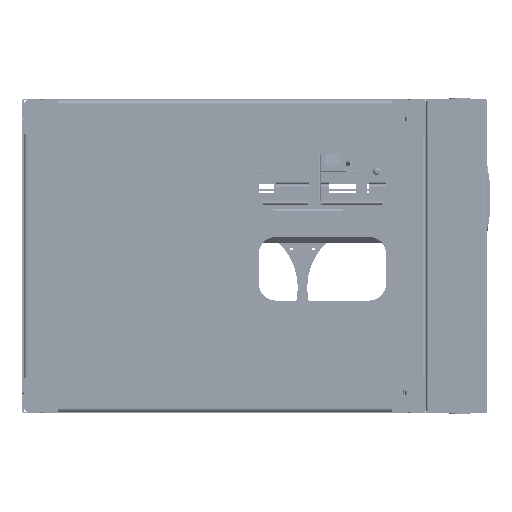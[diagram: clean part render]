
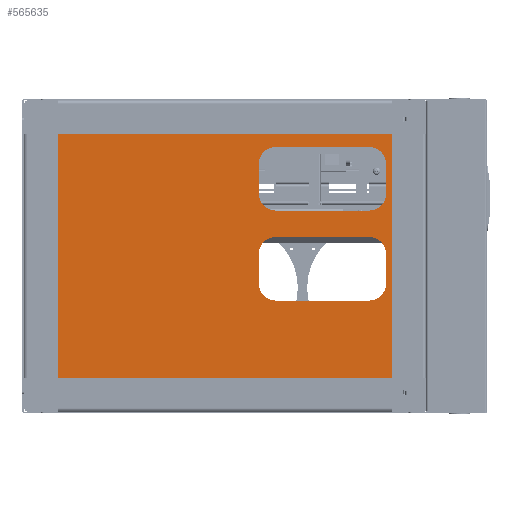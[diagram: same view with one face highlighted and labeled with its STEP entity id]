
A CAD part, front view. The second image highlights one B-rep face of the part: STEP entity #565635.
In plain terms, the highlighted planar face has unit normal (0, -1, 0) as drawn and (0, 0, 1) by its records, which use the part's own axes.
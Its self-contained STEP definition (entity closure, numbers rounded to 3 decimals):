
#565176=DIRECTION('',(-0.707,0.707,0.));
#565177=VECTOR('',#565176,7.071);
#565178=CARTESIAN_POINT('',(-126.5,39.,-3.));
#565179=LINE('',#565178,#565177);
#565180=DIRECTION('',(0.,1.,0.));
#565181=VECTOR('',#565180,390.);
#565182=CARTESIAN_POINT('',(-131.5,44.,-3.));
#565183=LINE('',#565182,#565181);
#565184=DIRECTION('',(0.707,0.707,0.));
#565185=VECTOR('',#565184,7.071);
#565186=CARTESIAN_POINT('',(-131.5,434.,-3.));
#565187=LINE('',#565186,#565185);
#565188=DIRECTION('',(1.,0.,0.));
#565189=VECTOR('',#565188,283.);
#565190=CARTESIAN_POINT('',(-126.5,439.,-3.));
#565191=LINE('',#565190,#565189);
#565192=DIRECTION('',(0.707,-0.707,0.));
#565193=VECTOR('',#565192,7.071);
#565194=CARTESIAN_POINT('',(156.5,439.,-3.));
#565195=LINE('',#565194,#565193);
#565196=DIRECTION('',(0.,-1.,0.));
#565197=VECTOR('',#565196,390.);
#565198=CARTESIAN_POINT('',(161.5,434.,-3.));
#565199=LINE('',#565198,#565197);
#565200=DIRECTION('',(-0.707,-0.707,0.));
#565201=VECTOR('',#565200,7.071);
#565202=CARTESIAN_POINT('',(161.5,44.,-3.));
#565203=LINE('',#565202,#565201);
#565204=DIRECTION('',(-1.,0.,0.));
#565205=VECTOR('',#565204,283.);
#565206=CARTESIAN_POINT('',(156.5,39.,-3.));
#565207=LINE('',#565206,#565205);
#565208=CARTESIAN_POINT('',(-93.5,409.,-3.));
#565209=DIRECTION('',(0.,0.,1.));
#565210=DIRECTION('',(0.,1.,0.));
#565211=AXIS2_PLACEMENT_3D('',#565208,#565209,#565210);
#565213=CARTESIAN_POINT('',(-93.5,299.,-3.));
#565214=DIRECTION('',(0.,0.,1.));
#565215=DIRECTION('',(-1.,0.,0.));
#565216=AXIS2_PLACEMENT_3D('',#565213,#565214,#565215);
#565218=CARTESIAN_POINT('',(-58.5,299.,-3.));
#565219=DIRECTION('',(0.,0.,1.));
#565220=DIRECTION('',(0.,-1.,0.));
#565221=AXIS2_PLACEMENT_3D('',#565218,#565219,#565220);
#565223=CARTESIAN_POINT('',(-58.5,409.,-3.));
#565224=DIRECTION('',(0.,0.,1.));
#565225=DIRECTION('',(1.,0.,0.));
#565226=AXIS2_PLACEMENT_3D('',#565223,#565224,#565225);
#565228=CARTESIAN_POINT('',(12.5,409.,-3.));
#565229=DIRECTION('',(0.,0.,1.));
#565230=DIRECTION('',(0.,1.,0.));
#565231=AXIS2_PLACEMENT_3D('',#565228,#565229,#565230);
#565233=CARTESIAN_POINT('',(12.5,299.,-3.));
#565234=DIRECTION('',(0.,0.,1.));
#565235=DIRECTION('',(-1.,0.,0.));
#565236=AXIS2_PLACEMENT_3D('',#565233,#565234,#565235);
#565238=CARTESIAN_POINT('',(47.5,299.,-3.));
#565239=DIRECTION('',(0.,0.,1.));
#565240=DIRECTION('',(0.,-1.,0.));
#565241=AXIS2_PLACEMENT_3D('',#565238,#565239,#565240);
#565243=CARTESIAN_POINT('',(47.5,409.,-3.));
#565244=DIRECTION('',(0.,0.,1.));
#565245=DIRECTION('',(1.,0.,0.));
#565246=AXIS2_PLACEMENT_3D('',#565243,#565244,#565245);
#565384=DIRECTION('',(1.,0.,0.));
#565385=VECTOR('',#565384,35.);
#565386=CARTESIAN_POINT('',(-93.5,429.,-3.));
#565387=LINE('',#565386,#565385);
#565396=DIRECTION('',(0.,-1.,0.));
#565397=VECTOR('',#565396,110.);
#565398=CARTESIAN_POINT('',(-38.5,409.,-3.));
#565399=LINE('',#565398,#565397);
#565408=DIRECTION('',(-1.,0.,0.));
#565409=VECTOR('',#565408,35.);
#565410=CARTESIAN_POINT('',(-58.5,279.,-3.));
#565411=LINE('',#565410,#565409);
#565420=DIRECTION('',(0.,1.,0.));
#565421=VECTOR('',#565420,110.);
#565422=CARTESIAN_POINT('',(-113.5,299.,-3.));
#565423=LINE('',#565422,#565421);
#565432=DIRECTION('',(1.,0.,0.));
#565433=VECTOR('',#565432,35.);
#565434=CARTESIAN_POINT('',(12.5,429.,-3.));
#565435=LINE('',#565434,#565433);
#565444=DIRECTION('',(0.,-1.,0.));
#565445=VECTOR('',#565444,110.);
#565446=CARTESIAN_POINT('',(67.5,409.,-3.));
#565447=LINE('',#565446,#565445);
#565456=DIRECTION('',(-1.,0.,0.));
#565457=VECTOR('',#565456,35.);
#565458=CARTESIAN_POINT('',(47.5,279.,-3.));
#565459=LINE('',#565458,#565457);
#565468=DIRECTION('',(0.,1.,0.));
#565469=VECTOR('',#565468,110.);
#565470=CARTESIAN_POINT('',(-7.5,299.,-3.));
#565471=LINE('',#565470,#565469);
#565480=CARTESIAN_POINT('',(-126.5,39.,-3.));
#565481=CARTESIAN_POINT('',(-131.5,44.,-3.));
#565482=VERTEX_POINT('',#565480);
#565483=VERTEX_POINT('',#565481);
#565484=CARTESIAN_POINT('',(-131.5,434.,-3.));
#565485=VERTEX_POINT('',#565484);
#565486=CARTESIAN_POINT('',(-126.5,439.,-3.));
#565487=VERTEX_POINT('',#565486);
#565488=CARTESIAN_POINT('',(156.5,439.,-3.));
#565489=VERTEX_POINT('',#565488);
#565490=CARTESIAN_POINT('',(161.5,434.,-3.));
#565491=VERTEX_POINT('',#565490);
#565492=CARTESIAN_POINT('',(161.5,44.,-3.));
#565493=VERTEX_POINT('',#565492);
#565494=CARTESIAN_POINT('',(156.5,39.,-3.));
#565495=VERTEX_POINT('',#565494);
#565496=CARTESIAN_POINT('',(-93.5,429.,-3.));
#565497=CARTESIAN_POINT('',(-58.5,429.,-3.));
#565498=VERTEX_POINT('',#565496);
#565499=VERTEX_POINT('',#565497);
#565500=CARTESIAN_POINT('',(-113.5,409.,-3.));
#565501=VERTEX_POINT('',#565500);
#565502=CARTESIAN_POINT('',(-113.5,299.,-3.));
#565503=VERTEX_POINT('',#565502);
#565504=CARTESIAN_POINT('',(-93.5,279.,-3.));
#565505=VERTEX_POINT('',#565504);
#565506=CARTESIAN_POINT('',(-58.5,279.,-3.));
#565507=VERTEX_POINT('',#565506);
#565508=CARTESIAN_POINT('',(-38.5,299.,-3.));
#565509=VERTEX_POINT('',#565508);
#565510=CARTESIAN_POINT('',(-38.5,409.,-3.));
#565511=VERTEX_POINT('',#565510);
#565512=CARTESIAN_POINT('',(12.5,429.,-3.));
#565513=CARTESIAN_POINT('',(47.5,429.,-3.));
#565514=VERTEX_POINT('',#565512);
#565515=VERTEX_POINT('',#565513);
#565516=CARTESIAN_POINT('',(-7.5,409.,-3.));
#565517=VERTEX_POINT('',#565516);
#565518=CARTESIAN_POINT('',(-7.5,299.,-3.));
#565519=VERTEX_POINT('',#565518);
#565520=CARTESIAN_POINT('',(12.5,279.,-3.));
#565521=VERTEX_POINT('',#565520);
#565522=CARTESIAN_POINT('',(47.5,279.,-3.));
#565523=VERTEX_POINT('',#565522);
#565524=CARTESIAN_POINT('',(67.5,299.,-3.));
#565525=VERTEX_POINT('',#565524);
#565526=CARTESIAN_POINT('',(67.5,409.,-3.));
#565527=VERTEX_POINT('',#565526);
#565576=CARTESIAN_POINT('',(0.,0.,-3.));
#565577=DIRECTION('',(0.,0.,-1.));
#565578=DIRECTION('',(1.,0.,0.));
#565579=AXIS2_PLACEMENT_3D('',#565576,#565577,#565578);
#565580=PLANE('',#565579);
#565582=ORIENTED_EDGE('',*,*,#565581,.T.);
#565584=ORIENTED_EDGE('',*,*,#565583,.T.);
#565586=ORIENTED_EDGE('',*,*,#565585,.T.);
#565588=ORIENTED_EDGE('',*,*,#565587,.T.);
#565590=ORIENTED_EDGE('',*,*,#565589,.T.);
#565592=ORIENTED_EDGE('',*,*,#565591,.T.);
#565594=ORIENTED_EDGE('',*,*,#565593,.T.);
#565596=ORIENTED_EDGE('',*,*,#565595,.T.);
#565597=EDGE_LOOP('',(#565582,#565584,#565586,#565588,#565590,#565592,#565594,
#565596));
#565598=FACE_OUTER_BOUND('',#565597,.F.);
#565600=ORIENTED_EDGE('',*,*,#565599,.F.);
#565602=ORIENTED_EDGE('',*,*,#565601,.T.);
#565604=ORIENTED_EDGE('',*,*,#565603,.F.);
#565606=ORIENTED_EDGE('',*,*,#565605,.T.);
#565608=ORIENTED_EDGE('',*,*,#565607,.F.);
#565610=ORIENTED_EDGE('',*,*,#565609,.T.);
#565612=ORIENTED_EDGE('',*,*,#565611,.F.);
#565614=ORIENTED_EDGE('',*,*,#565613,.T.);
#565615=EDGE_LOOP('',(#565600,#565602,#565604,#565606,#565608,#565610,#565612,
#565614));
#565616=FACE_BOUND('',#565615,.F.);
#565618=ORIENTED_EDGE('',*,*,#565617,.F.);
#565620=ORIENTED_EDGE('',*,*,#565619,.T.);
#565622=ORIENTED_EDGE('',*,*,#565621,.F.);
#565624=ORIENTED_EDGE('',*,*,#565623,.T.);
#565626=ORIENTED_EDGE('',*,*,#565625,.F.);
#565628=ORIENTED_EDGE('',*,*,#565627,.T.);
#565630=ORIENTED_EDGE('',*,*,#565629,.F.);
#565632=ORIENTED_EDGE('',*,*,#565631,.T.);
#565633=EDGE_LOOP('',(#565618,#565620,#565622,#565624,#565626,#565628,#565630,
#565632));
#565634=FACE_BOUND('',#565633,.F.);
#565635=ADVANCED_FACE('',(#565598,#565616,#565634),#565580,.F.);
#565212=CIRCLE('',#565211,20.);
#565217=CIRCLE('',#565216,20.);
#565222=CIRCLE('',#565221,20.);
#565227=CIRCLE('',#565226,20.);
#565232=CIRCLE('',#565231,20.);
#565237=CIRCLE('',#565236,20.);
#565242=CIRCLE('',#565241,20.);
#565247=CIRCLE('',#565246,20.);
#565581=EDGE_CURVE('',#565482,#565483,#565179,.T.);
#565583=EDGE_CURVE('',#565483,#565485,#565183,.T.);
#565585=EDGE_CURVE('',#565485,#565487,#565187,.T.);
#565587=EDGE_CURVE('',#565487,#565489,#565191,.T.);
#565589=EDGE_CURVE('',#565489,#565491,#565195,.T.);
#565591=EDGE_CURVE('',#565491,#565493,#565199,.T.);
#565593=EDGE_CURVE('',#565493,#565495,#565203,.T.);
#565595=EDGE_CURVE('',#565495,#565482,#565207,.T.);
#565599=EDGE_CURVE('',#565498,#565499,#565387,.T.);
#565601=EDGE_CURVE('',#565498,#565501,#565212,.T.);
#565603=EDGE_CURVE('',#565503,#565501,#565423,.T.);
#565605=EDGE_CURVE('',#565503,#565505,#565217,.T.);
#565607=EDGE_CURVE('',#565507,#565505,#565411,.T.);
#565609=EDGE_CURVE('',#565507,#565509,#565222,.T.);
#565611=EDGE_CURVE('',#565511,#565509,#565399,.T.);
#565613=EDGE_CURVE('',#565511,#565499,#565227,.T.);
#565617=EDGE_CURVE('',#565514,#565515,#565435,.T.);
#565619=EDGE_CURVE('',#565514,#565517,#565232,.T.);
#565621=EDGE_CURVE('',#565519,#565517,#565471,.T.);
#565623=EDGE_CURVE('',#565519,#565521,#565237,.T.);
#565625=EDGE_CURVE('',#565523,#565521,#565459,.T.);
#565627=EDGE_CURVE('',#565523,#565525,#565242,.T.);
#565629=EDGE_CURVE('',#565527,#565525,#565447,.T.);
#565631=EDGE_CURVE('',#565527,#565515,#565247,.T.);
